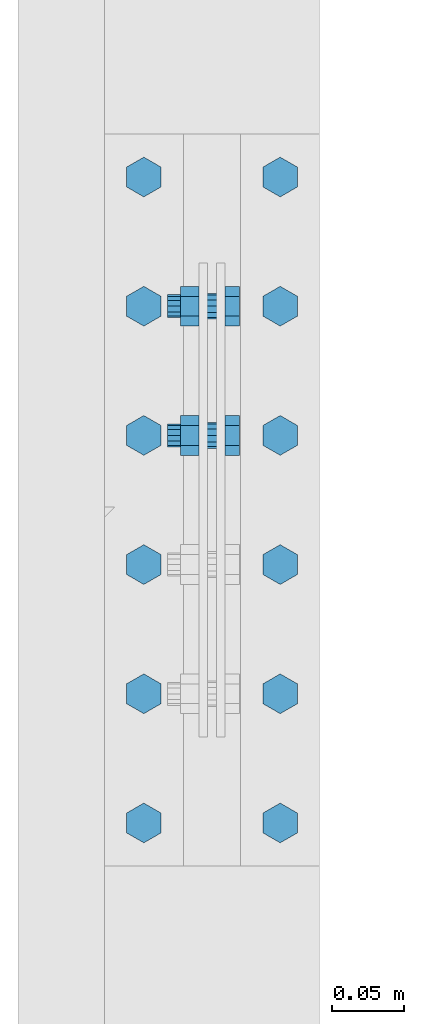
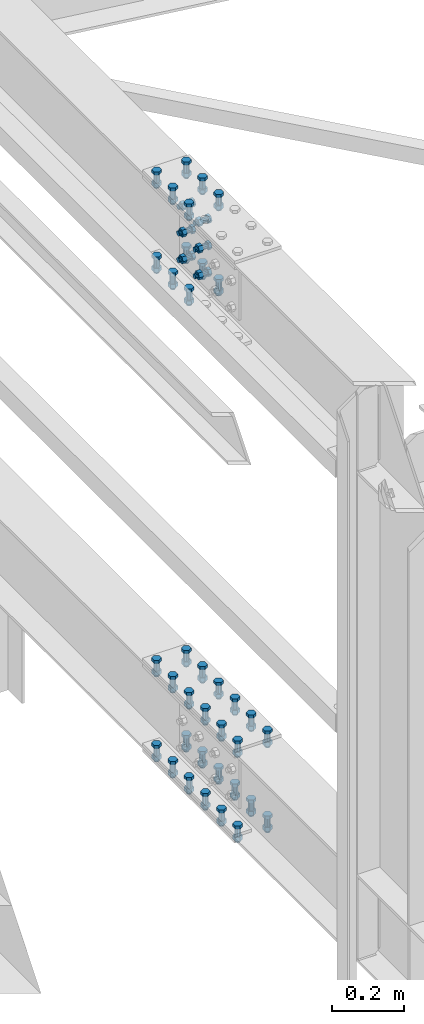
# One storey, part 99 of 3134: 13 mechanical fasteners, 2 elements without a shape of their own.
"""IFC2X3 building model written with IfcOpenShell, lengths in millimetres."""

from ifc_helpers import new_model, si_unit, frame, origin_with_axes, place, context, subcontext, project, spatial, faceted_brep, source, transform, mapped, material, type_object, element, aggregate, save


model = new_model("IFC2X3")

# Units and contexts
model_context = context("Model", 3, precision=1e-05, world=origin_with_axes())
body_context = subcontext(model_context, "Body", "Model", "MODEL_VIEW")
ifc_project = project(units=[si_unit("LENGTHUNIT", "METRE", prefix="MILLI"), si_unit("AREAUNIT", "SQUARE_METRE"), si_unit("VOLUMEUNIT", "CUBIC_METRE"), si_unit("MASSUNIT", "GRAM", prefix="KILO"), si_unit("TIMEUNIT", "SECOND"), si_unit("PLANEANGLEUNIT", "RADIAN"), si_unit("SOLIDANGLEUNIT", "STERADIAN"), si_unit("THERMODYNAMICTEMPERATUREUNIT", "DEGREE_CELSIUS"), si_unit("LUMINOUSINTENSITYUNIT", "LUMEN")], contexts=[model_context])

# Site, building, storey
site_placement = place(None, origin_with_axes())
site = spatial("IfcSite", under=ifc_project, at=site_placement, CompositionType="ELEMENT")
building_placement = place(site_placement, origin_with_axes())
building = spatial("IfcBuilding", under=site, at=building_placement, Name="Undefined", CompositionType="ELEMENT")
storey_placement = place(building_placement, origin_with_axes())
storey = spatial("IfcBuildingStorey", under=building, at=storey_placement, Name="Undefined", CompositionType="ELEMENT", Elevation=0.0)

# Assembly, mechanical fastener
assembly_1_placement = place(storey_placement, origin_with_axes())
assembly_1 = element("IfcElementAssembly", 1, at=assembly_1_placement, inside=storey, Name="300", AssemblyPlace="NOTDEFINED", PredefinedType="RIGID_FRAME")
ifc_material = material(Name="8.8")
mechanical_fastener_type = type_object("IfcMechanicalFastenerType", Name="Bolt assembly")
shared_shape_1 = source(origin_with_axes(), body_context, "Body", "Brep", [
    faceted_brep([(13.856406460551, -19.0499999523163, 0.0), (6.92820323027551, -19.0499999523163, 12.0), (-6.92820323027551, -19.0499999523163, 12.0), (-13.856406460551, -19.0499999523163, 1.69692038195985e-15), (-6.92820323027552, -19.0499999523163, -12.0), (6.9282032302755, -19.0499999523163, -12.0), (6.9282032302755, -9.04999995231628, -12.0), (-6.92820323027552, -9.04999995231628, -12.0), (-13.856406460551, -9.04999995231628, 1.69692038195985e-15), (-6.92820323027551, -9.04999995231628, 12.0), (6.92820323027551, -9.04999995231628, 12.0), (13.856406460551, -9.04999995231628, 0.0), (8.0, -9.04999995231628, 0.0), (6.92820323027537, -9.04999995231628, 4.00000000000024), (3.99999999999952, -9.04999995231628, 6.92820323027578), (-8.29068785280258e-13, -9.04999995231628, 8.0), (-4.00000000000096, -9.04999995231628, 6.92820323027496), (-6.9282032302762, -9.04999995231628, 3.99999999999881), (-8.0, -9.04999995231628, -1.65813757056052e-12), (-6.92820323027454, -9.04999995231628, -4.00000000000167), (-3.99999999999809, -9.04999995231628, -6.92820323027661), (2.47832457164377e-12, -9.04999995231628, -8.0), (4.00000000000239, -9.04999995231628, -6.92820323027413), (6.92820323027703, -9.04999995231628, -3.99999999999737), (6.92820323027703, 30.9500000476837, -3.99999999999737), (4.00000000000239, 30.9500000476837, -6.92820323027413), (2.47832457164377e-12, 30.9500000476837, -8.0), (-3.99999999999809, 30.9500000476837, -6.92820323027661), (-6.92820323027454, 30.9500000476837, -4.00000000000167), (-8.0, 30.9500000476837, -1.65813757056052e-12), (-6.9282032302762, 30.9500000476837, 3.99999999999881), (-4.00000000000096, 30.9500000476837, 6.92820323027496), (-8.29068785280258e-13, 30.9500000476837, 8.0), (3.99999999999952, 30.9500000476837, 6.92820323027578), (6.92820323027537, 30.9500000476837, 4.00000000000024), (8.0, 30.9500000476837, 0.0), (13.856406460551, 9.04999995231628, 0.0), (6.92820323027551, 9.04999995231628, 12.0), (-6.92820323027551, 9.04999995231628, 12.0), (-13.856406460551, 9.04999995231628, 1.69692038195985e-15), (-6.92820323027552, 9.04999995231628, -12.0), (6.9282032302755, 9.04999995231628, -12.0), (6.9282032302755, 22.0499999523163, -12.0), (-6.92820323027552, 22.0499999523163, -12.0), (-13.856406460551, 22.0499999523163, 1.69692038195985e-15), (-6.92820323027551, 22.0499999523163, 12.0), (6.92820323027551, 22.0499999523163, 12.0), (13.856406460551, 22.0499999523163, 0.0)], [[[0, 1, 2, 3, 4, 5]], [[6, 7, 8, 9, 10, 11]], [[0, 11, 10, 1]], [[1, 10, 9, 2]], [[2, 9, 8, 3]], [[3, 8, 7, 4]], [[4, 7, 6, 5]], [[5, 6, 11, 0]], [[12, 13, 14, 15, 16, 17, 18, 19, 20, 21, 22, 23]], [[24, 25, 26, 27, 28, 29, 30, 31, 32, 33, 34, 35]], [[12, 35, 34, 13]], [[13, 34, 33, 14]], [[14, 33, 32, 15]], [[15, 32, 31, 16]], [[16, 31, 30, 17]], [[17, 30, 29, 18]], [[18, 29, 28, 19]], [[19, 28, 27, 20]], [[20, 27, 26, 21]], [[21, 26, 25, 22]], [[22, 25, 24, 23]], [[23, 24, 35, 12]], [[36, 37, 38, 39, 40, 41]], [[42, 43, 44, 45, 46, 47]], [[36, 47, 46, 37]], [[37, 46, 45, 38]], [[38, 45, 44, 39]], [[39, 44, 43, 40]], [[40, 43, 42, 41]], [[41, 42, 47, 36]]]),
    faceted_brep([(9.0, -8.94999995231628, 0.0), (7.79422863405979, -8.94999995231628, 4.50000000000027), (4.49999999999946, -8.94999995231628, 7.79422863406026), (-9.3270238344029e-13, -8.94999995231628, 9.0), (-4.50000000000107, -8.94999995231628, 7.79422863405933), (-7.79422863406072, -8.94999995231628, 4.49999999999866), (-9.0, -8.94999995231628, -1.86540476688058e-12), (-7.79422863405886, -8.94999995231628, -4.50000000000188), (-4.49999999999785, -8.94999995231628, -7.79422863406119), (2.78811514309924e-12, -8.94999995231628, -9.0), (4.50000000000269, -8.94999995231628, -7.7942286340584), (7.79422863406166, -8.94999995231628, -4.49999999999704), (7.79422863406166, -2.94999995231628, -4.49999999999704), (4.50000000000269, -2.94999995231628, -7.7942286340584), (2.78811514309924e-12, -2.94999995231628, -9.0), (-4.49999999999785, -2.94999995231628, -7.79422863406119), (-7.79422863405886, -2.94999995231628, -4.50000000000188), (-9.0, -2.94999995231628, -1.86540476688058e-12), (-7.79422863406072, -2.94999995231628, 4.49999999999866), (-4.50000000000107, -2.94999995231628, 7.79422863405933), (-9.3270238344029e-13, -2.94999995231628, 9.0), (4.49999999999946, -2.94999995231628, 7.79422863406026), (7.79422863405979, -2.94999995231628, 4.50000000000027), (9.0, -2.94999995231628, 0.0), (9.0, -3.04999995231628, 0.0), (7.79422863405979, -3.04999995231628, 4.50000000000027), (4.49999999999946, -3.04999995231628, 7.79422863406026), (-9.3270238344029e-13, -3.04999995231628, 9.0), (-4.50000000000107, -3.04999995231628, 7.79422863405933), (-7.79422863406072, -3.04999995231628, 4.49999999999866), (-9.0, -3.04999995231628, -1.86540476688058e-12), (-7.79422863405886, -3.04999995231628, -4.50000000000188), (-4.49999999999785, -3.04999995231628, -7.79422863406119), (2.78811514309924e-12, -3.04999995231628, -9.0), (4.50000000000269, -3.04999995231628, -7.7942286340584), (7.79422863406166, -3.04999995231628, -4.49999999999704), (7.79422863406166, 3.04999995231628, -4.49999999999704), (4.50000000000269, 3.04999995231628, -7.7942286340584), (2.78811514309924e-12, 3.04999995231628, -9.0), (-4.49999999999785, 3.04999995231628, -7.79422863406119), (-7.79422863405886, 3.04999995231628, -4.50000000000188), (-9.0, 3.04999995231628, -1.86540476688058e-12), (-7.79422863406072, 3.04999995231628, 4.49999999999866), (-4.50000000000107, 3.04999995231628, 7.79422863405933), (-9.3270238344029e-13, 3.04999995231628, 9.0), (4.49999999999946, 3.04999995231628, 7.79422863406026), (7.79422863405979, 3.04999995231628, 4.50000000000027), (9.0, 3.04999995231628, 0.0), (9.0, 2.95000000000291, 0.0), (7.79422863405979, 2.95000000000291, 4.50000000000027), (4.49999999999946, 2.95000000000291, 7.79422863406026), (-9.3270238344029e-13, 2.95000000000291, 9.0), (-4.50000000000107, 2.95000000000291, 7.79422863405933), (-7.79422863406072, 2.95000000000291, 4.49999999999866), (-9.0, 2.95000000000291, -1.86540476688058e-12), (-7.79422863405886, 2.95000000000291, -4.50000000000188), (-4.49999999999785, 2.95000000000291, -7.79422863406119), (2.78811514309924e-12, 2.95000000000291, -9.0), (4.50000000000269, 2.95000000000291, -7.7942286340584), (7.79422863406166, 2.95000000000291, -4.49999999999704), (7.79422863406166, 9.04999995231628, -4.49999999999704), (4.50000000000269, 9.04999995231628, -7.7942286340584), (2.78811514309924e-12, 9.04999995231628, -9.0), (-4.49999999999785, 9.04999995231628, -7.79422863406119), (-7.79422863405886, 9.04999995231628, -4.50000000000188), (-9.0, 9.04999995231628, -1.86540476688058e-12), (-7.79422863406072, 9.04999995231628, 4.49999999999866), (-4.50000000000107, 9.04999995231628, 7.79422863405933), (-9.3270238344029e-13, 9.04999995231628, 9.0), (4.49999999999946, 9.04999995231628, 7.79422863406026), (7.79422863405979, 9.04999995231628, 4.50000000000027), (9.0, 9.04999995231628, 0.0)], [[[0, 1, 2, 3, 4, 5, 6, 7, 8, 9, 10, 11]], [[12, 13, 14, 15, 16, 17, 18, 19, 20, 21, 22, 23]], [[0, 23, 22, 1]], [[1, 22, 21, 2]], [[2, 21, 20, 3]], [[3, 20, 19, 4]], [[4, 19, 18, 5]], [[5, 18, 17, 6]], [[6, 17, 16, 7]], [[7, 16, 15, 8]], [[8, 15, 14, 9]], [[9, 14, 13, 10]], [[10, 13, 12, 11]], [[11, 12, 23, 0]], [[24, 25, 26, 27, 28, 29, 30, 31, 32, 33, 34, 35]], [[36, 37, 38, 39, 40, 41, 42, 43, 44, 45, 46, 47]], [[24, 47, 46, 25]], [[25, 46, 45, 26]], [[26, 45, 44, 27]], [[27, 44, 43, 28]], [[28, 43, 42, 29]], [[29, 42, 41, 30]], [[30, 41, 40, 31]], [[31, 40, 39, 32]], [[32, 39, 38, 33]], [[33, 38, 37, 34]], [[34, 37, 36, 35]], [[35, 36, 47, 24]], [[48, 49, 50, 51, 52, 53, 54, 55, 56, 57, 58, 59]], [[60, 61, 62, 63, 64, 65, 66, 67, 68, 69, 70, 71]], [[48, 71, 70, 49]], [[49, 70, 69, 50]], [[50, 69, 68, 51]], [[51, 68, 67, 52]], [[52, 67, 66, 53]], [[53, 66, 65, 54]], [[54, 65, 64, 55]], [[55, 64, 63, 56]], [[56, 63, 62, 57]], [[57, 62, 61, 58]], [[58, 61, 60, 59]], [[59, 60, 71, 48]]]),
])
mechanical_fastener_1_placement = place(assembly_1_placement, frame((20850.0, 28369.9, 5741.5), z_axis=(0.0, 0.0, 1.0), x_axis=(0.0, 1.0, 0.0)))
mechanical_fastener_1 = element("IfcMechanicalFastener", 2, at=mechanical_fastener_1_placement, type_object=mechanical_fastener_type, material=ifc_material, Name="Bolt assembly", NominalDiameter=16.0, NominalLength=40.0, context=body_context, shape_type="MappedRepresentation", body=[
    mapped(shared_shape_1, transform((0.0, 0.0, -90.0))),
    mapped(shared_shape_1, transform((90.0, 0.0, -90.0))),
    mapped(shared_shape_1, transform((0.0, 0.0, 0.0))),
    mapped(shared_shape_1, transform((90.0, 0.0, 0.0))),
    mapped(shared_shape_1, transform((0.0, 0.0, 90.0))),
    mapped(shared_shape_1, transform((90.0, 0.0, 90.0))),
])

assembly_2_placement = place(storey_placement, origin_with_axes())
assembly_2 = element("IfcElementAssembly", 3, at=assembly_2_placement, inside=storey, Name="300", AssemblyPlace="NOTDEFINED", PredefinedType="RIGID_FRAME")
shared_shape_2 = source(origin_with_axes(), body_context, "Body", "Brep", [
    faceted_brep([(13.856406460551, -29.1999998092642, 0.0), (6.92820323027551, -29.1999998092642, 12.0), (-6.92820323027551, -29.1999998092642, 12.0), (-13.856406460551, -29.1999998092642, 1.69692038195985e-15), (-6.92820323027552, -29.1999998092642, -12.0), (6.9282032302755, -29.1999998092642, -12.0), (6.9282032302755, -19.199990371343, -12.0), (-6.92820323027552, -19.199990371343, -12.0), (-13.856406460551, -19.199990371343, 1.69692038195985e-15), (-6.92820323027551, -19.199990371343, 12.0), (6.92820323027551, -19.199990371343, 12.0), (13.856406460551, -19.199990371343, 0.0), (8.0, -19.1999998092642, 0.0), (6.92820323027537, -19.1999998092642, 4.00000000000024), (3.99999999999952, -19.1999998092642, 6.92820323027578), (-8.29068785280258e-13, -19.1999998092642, 8.0), (-4.00000000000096, -19.1999998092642, 6.92820323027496), (-6.9282032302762, -19.1999998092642, 3.99999999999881), (-8.0, -19.1999998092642, -1.65813757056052e-12), (-6.92820323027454, -19.1999998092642, -4.00000000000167), (-3.99999999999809, -19.1999998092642, -6.92820323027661), (2.47832457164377e-12, -19.1999998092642, -8.0), (4.00000000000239, -19.1999998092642, -6.92820323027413), (6.92820323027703, -19.1999998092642, -3.99999999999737), (6.92820323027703, 30.8000001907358, -3.99999999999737), (4.00000000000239, 30.8000001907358, -6.92820323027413), (2.47832457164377e-12, 30.8000001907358, -8.0), (-3.99999999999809, 30.8000001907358, -6.92820323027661), (-6.92820323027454, 30.8000001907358, -4.00000000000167), (-8.0, 30.8000001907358, -1.65813757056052e-12), (-6.9282032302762, 30.8000001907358, 3.99999999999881), (-4.00000000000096, 30.8000001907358, 6.92820323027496), (-8.29068785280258e-13, 30.8000001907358, 8.0), (3.99999999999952, 30.8000001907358, 6.92820323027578), (6.92820323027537, 30.8000001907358, 4.00000000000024), (8.0, 30.8000001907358, 0.0), (13.856406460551, 9.99999995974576, 0.0), (6.92820323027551, 9.99999995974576, 12.0), (-6.92820323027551, 9.99999995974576, 12.0), (-13.856406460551, 9.99999995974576, 1.69692038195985e-15), (-6.92820323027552, 9.99999995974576, -12.0), (6.9282032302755, 9.99999995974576, -12.0), (6.9282032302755, 22.9999913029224, -12.0), (-6.92820323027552, 22.9999913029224, -12.0), (-13.856406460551, 22.9999913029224, 1.69692038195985e-15), (-6.92820323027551, 22.9999913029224, 12.0), (6.92820323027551, 22.9999913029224, 12.0), (13.856406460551, 22.9999913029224, 0.0)], [[[0, 1, 2, 3, 4, 5]], [[6, 7, 8, 9, 10, 11]], [[0, 11, 10, 1]], [[1, 10, 9, 2]], [[2, 9, 8, 3]], [[3, 8, 7, 4]], [[4, 7, 6, 5]], [[5, 6, 11, 0]], [[12, 13, 14, 15, 16, 17, 18, 19, 20, 21, 22, 23]], [[24, 25, 26, 27, 28, 29, 30, 31, 32, 33, 34, 35]], [[12, 35, 34, 13]], [[13, 34, 33, 14]], [[14, 33, 32, 15]], [[15, 32, 31, 16]], [[16, 31, 30, 17]], [[17, 30, 29, 18]], [[18, 29, 28, 19]], [[19, 28, 27, 20]], [[20, 27, 26, 21]], [[21, 26, 25, 22]], [[22, 25, 24, 23]], [[23, 24, 35, 12]], [[36, 37, 38, 39, 40, 41]], [[42, 43, 44, 45, 46, 47]], [[36, 47, 46, 37]], [[37, 46, 45, 38]], [[38, 45, 44, 39]], [[39, 44, 43, 40]], [[40, 43, 42, 41]], [[41, 42, 47, 36]]]),
    faceted_brep([(9.0, -19.0999998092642, 0.0), (7.79422863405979, -19.0999998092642, 4.50000000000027), (4.49999999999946, -19.0999998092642, 7.79422863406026), (-9.3270238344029e-13, -19.0999998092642, 9.0), (-4.50000000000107, -19.0999998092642, 7.79422863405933), (-7.79422863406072, -19.0999998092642, 4.49999999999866), (-9.0, -19.0999998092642, -1.86540476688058e-12), (-7.79422863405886, -19.0999998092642, -4.50000000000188), (-4.49999999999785, -19.0999998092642, -7.79422863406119), (2.78811514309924e-12, -19.0999998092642, -9.0), (4.50000000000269, -19.0999998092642, -7.7942286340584), (7.79422863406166, -19.0999998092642, -4.49999999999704), (7.79422863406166, -9.09999037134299, -4.49999999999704), (4.50000000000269, -9.09999037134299, -7.7942286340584), (2.78811514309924e-12, -9.09999037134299, -9.0), (-4.49999999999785, -9.09999037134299, -7.79422863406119), (-7.79422863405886, -9.09999037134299, -4.50000000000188), (-9.0, -9.09999037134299, -1.86540476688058e-12), (-7.79422863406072, -9.09999037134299, 4.49999999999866), (-4.50000000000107, -9.09999037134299, 7.79422863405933), (-9.3270238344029e-13, -9.09999037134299, 9.0), (4.49999999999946, -9.09999037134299, 7.79422863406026), (7.79422863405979, -9.09999037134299, 4.50000000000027), (9.0, -9.09999037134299, 0.0), (9.0, -9.20000008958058, 0.0), (7.79422863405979, -9.20000008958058, 4.50000000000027), (4.49999999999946, -9.20000008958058, 7.79422863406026), (-9.3270238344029e-13, -9.20000008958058, 9.0), (-4.50000000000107, -9.20000008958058, 7.79422863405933), (-7.79422863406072, -9.20000008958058, 4.49999999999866), (-9.0, -9.20000008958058, -1.86540476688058e-12), (-7.79422863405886, -9.20000008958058, -4.50000000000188), (-4.49999999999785, -9.20000008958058, -7.79422863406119), (2.78811514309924e-12, -9.20000008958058, -9.0), (4.50000000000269, -9.20000008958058, -7.7942286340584), (7.79422863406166, -9.20000008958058, -4.49999999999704), (7.79422863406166, -3.46568413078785e-07, -4.49999999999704), (4.50000000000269, -3.46568413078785e-07, -7.7942286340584), (2.78811514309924e-12, -3.46568413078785e-07, -9.0), (-4.49999999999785, -3.46568413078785e-07, -7.79422863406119), (-7.79422863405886, -3.46568413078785e-07, -4.50000000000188), (-9.0, -3.46568413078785e-07, -1.86540476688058e-12), (-7.79422863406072, -3.46568413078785e-07, 4.49999999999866), (-4.50000000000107, -3.46568413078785e-07, 7.79422863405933), (-9.3270238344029e-13, -3.46568413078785e-07, 9.0), (4.49999999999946, -3.46568413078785e-07, 7.79422863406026), (7.79422863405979, -3.46568413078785e-07, 4.50000000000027), (9.0, -3.46568413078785e-07, 0.0), (9.0, -0.1, 0.0), (7.79422863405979, -0.1, 4.50000000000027), (4.49999999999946, -0.1, 7.79422863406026), (-9.3270238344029e-13, -0.1, 9.0), (-4.50000000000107, -0.1, 7.79422863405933), (-7.79422863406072, -0.1, 4.49999999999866), (-9.0, -0.1, -1.86540476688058e-12), (-7.79422863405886, -0.1, -4.50000000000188), (-4.49999999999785, -0.1, -7.79422863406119), (2.78811514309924e-12, -0.1, -9.0), (4.50000000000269, -0.1, -7.7942286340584), (7.79422863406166, -0.1, -4.49999999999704), (7.79422863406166, 9.99999995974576, -4.49999999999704), (4.50000000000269, 9.99999995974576, -7.7942286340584), (2.78811514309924e-12, 9.99999995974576, -9.0), (-4.49999999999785, 9.99999995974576, -7.79422863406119), (-7.79422863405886, 9.99999995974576, -4.50000000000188), (-9.0, 9.99999995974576, -1.86540476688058e-12), (-7.79422863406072, 9.99999995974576, 4.49999999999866), (-4.50000000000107, 9.99999995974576, 7.79422863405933), (-9.3270238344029e-13, 9.99999995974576, 9.0), (4.49999999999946, 9.99999995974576, 7.79422863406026), (7.79422863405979, 9.99999995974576, 4.50000000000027), (9.0, 9.99999995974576, 0.0)], [[[0, 1, 2, 3, 4, 5, 6, 7, 8, 9, 10, 11]], [[12, 13, 14, 15, 16, 17, 18, 19, 20, 21, 22, 23]], [[0, 23, 22, 1]], [[1, 22, 21, 2]], [[2, 21, 20, 3]], [[3, 20, 19, 4]], [[4, 19, 18, 5]], [[5, 18, 17, 6]], [[6, 17, 16, 7]], [[7, 16, 15, 8]], [[8, 15, 14, 9]], [[9, 14, 13, 10]], [[10, 13, 12, 11]], [[11, 12, 23, 0]], [[24, 25, 26, 27, 28, 29, 30, 31, 32, 33, 34, 35]], [[36, 37, 38, 39, 40, 41, 42, 43, 44, 45, 46, 47]], [[24, 47, 46, 25]], [[25, 46, 45, 26]], [[26, 45, 44, 27]], [[27, 44, 43, 28]], [[28, 43, 42, 29]], [[29, 42, 41, 30]], [[30, 41, 40, 31]], [[31, 40, 39, 32]], [[32, 39, 38, 33]], [[33, 38, 37, 34]], [[34, 37, 36, 35]], [[35, 36, 47, 24]], [[48, 49, 50, 51, 52, 53, 54, 55, 56, 57, 58, 59]], [[60, 61, 62, 63, 64, 65, 66, 67, 68, 69, 70, 71]], [[48, 71, 70, 49]], [[49, 70, 69, 50]], [[50, 69, 68, 51]], [[51, 68, 67, 52]], [[52, 67, 66, 53]], [[53, 66, 65, 54]], [[54, 65, 64, 55]], [[55, 64, 63, 56]], [[56, 63, 62, 57]], [[57, 62, 61, 58]], [[58, 61, 60, 59]], [[59, 60, 71, 48]]]),
])
mechanical_fastener_2_placement = place(assembly_2_placement, frame((20897.5, 28099.9, 4227.80000019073), z_axis=(-1.0, 0.0, 0.0), x_axis=(0.0, 1.0, 0.0)))
mechanical_fastener_2 = element("IfcMechanicalFastener", 4, at=mechanical_fastener_2_placement, type_object=mechanical_fastener_type, material=ifc_material, Name="Bolt assembly", NominalDiameter=16.0, NominalLength=50.0, context=body_context, shape_type="MappedRepresentation", body=[
    mapped(shared_shape_2, transform((0.0, 0.0, 0.0))),
    mapped(shared_shape_2, transform((90.0, 0.0, 0.0))),
    mapped(shared_shape_2, transform((180.0, 0.0, 0.0))),
])

# Mechanical fastener
mechanical_fastener_3_placement = place(assembly_1_placement, frame((20897.5, 28369.9, 4227.80000019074), z_axis=(-1.0, 0.0, 0.0), x_axis=(0.0, 1.0, 0.0)))
mechanical_fastener_3 = element("IfcMechanicalFastener", 5, at=mechanical_fastener_3_placement, type_object=mechanical_fastener_type, material=ifc_material, Name="Bolt assembly", NominalDiameter=16.0, NominalLength=50.0, context=body_context, shape_type="MappedRepresentation", body=[
    mapped(shared_shape_2, transform((0.0, 0.0, 0.0))),
    mapped(shared_shape_2, transform((90.0, 0.0, 0.0))),
    mapped(shared_shape_2, transform((180.0, 0.0, 0.0))),
])

mechanical_fastener_4_placement = place(assembly_1_placement, frame((20802.5, 28369.9, 4227.80000019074), z_axis=(-1.0, 0.0, 0.0), x_axis=(0.0, 1.0, 0.0)))
mechanical_fastener_4 = element("IfcMechanicalFastener", 6, at=mechanical_fastener_4_placement, type_object=mechanical_fastener_type, material=ifc_material, Name="Bolt assembly", NominalDiameter=16.0, NominalLength=50.0, context=body_context, shape_type="MappedRepresentation", body=[
    mapped(shared_shape_2, transform((0.0, 0.0, 0.0))),
    mapped(shared_shape_2, transform((90.0, 0.0, 0.0))),
    mapped(shared_shape_2, transform((180.0, 0.0, 0.0))),
])

mechanical_fastener_5_placement = place(assembly_2_placement, frame((20802.5, 28099.9, 4227.80000019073), z_axis=(-1.0, 0.0, 0.0), x_axis=(0.0, 1.0, 0.0)))
mechanical_fastener_5 = element("IfcMechanicalFastener", 7, at=mechanical_fastener_5_placement, type_object=mechanical_fastener_type, material=ifc_material, Name="Bolt assembly", NominalDiameter=16.0, NominalLength=50.0, context=body_context, shape_type="MappedRepresentation", body=[
    mapped(shared_shape_2, transform((0.0, 0.0, 0.0))),
    mapped(shared_shape_2, transform((90.0, 0.0, 0.0))),
    mapped(shared_shape_2, transform((180.0, 0.0, 0.0))),
])

mechanical_fastener_6_placement = place(assembly_1_placement, frame((20802.5, 28369.9, 5880.80000019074), z_axis=(-1.0, 0.0, 0.0), x_axis=(0.0, 1.0, 0.0)))
mechanical_fastener_6 = element("IfcMechanicalFastener", 8, at=mechanical_fastener_6_placement, type_object=mechanical_fastener_type, material=ifc_material, Name="Bolt assembly", NominalDiameter=16.0, NominalLength=50.0, context=body_context, shape_type="MappedRepresentation", body=[
    mapped(shared_shape_2, transform((0.0, 0.0, 0.0))),
    mapped(shared_shape_2, transform((90.0, 0.0, 0.0))),
    mapped(shared_shape_2, transform((180.0, 0.0, 0.0))),
])

mechanical_fastener_7_placement = place(assembly_1_placement, frame((20897.5, 28369.9, 5880.80000019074), z_axis=(-1.0, 0.0, 0.0), x_axis=(0.0, 1.0, 0.0)))
mechanical_fastener_7 = element("IfcMechanicalFastener", 9, at=mechanical_fastener_7_placement, type_object=mechanical_fastener_type, material=ifc_material, Name="Bolt assembly", NominalDiameter=16.0, NominalLength=50.0, context=body_context, shape_type="MappedRepresentation", body=[
    mapped(shared_shape_2, transform((0.0, 0.0, 0.0))),
    mapped(shared_shape_2, transform((90.0, 0.0, 0.0))),
    mapped(shared_shape_2, transform((180.0, 0.0, 0.0))),
])

shared_shape_3 = source(origin_with_axes(), body_context, "Body", "Brep", [
    faceted_brep([(13.856406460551, -20.0, 0.0), (6.92820323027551, -20.0, 12.0), (-6.92820323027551, -20.0, 12.0), (-13.856406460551, -20.0, 1.69692038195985e-15), (-6.92820323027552, -20.0, -12.0), (6.9282032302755, -20.0, -12.0), (6.9282032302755, -10.0, -12.0), (-6.92820323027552, -10.0, -12.0), (-13.856406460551, -10.0, 1.69692038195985e-15), (-6.92820323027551, -10.0, 12.0), (6.92820323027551, -10.0, 12.0), (13.856406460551, -10.0, 0.0), (8.0, -10.0, 0.0), (6.92820323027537, -10.0, 4.00000000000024), (3.99999999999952, -10.0, 6.92820323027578), (-8.29068785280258e-13, -10.0, 8.0), (-4.00000000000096, -10.0, 6.92820323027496), (-6.9282032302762, -10.0, 3.99999999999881), (-8.0, -10.0, -1.65813757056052e-12), (-6.92820323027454, -10.0, -4.00000000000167), (-3.99999999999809, -10.0, -6.92820323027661), (2.47832457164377e-12, -10.0, -8.0), (4.00000000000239, -10.0, -6.92820323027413), (6.92820323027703, -10.0, -3.99999999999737), (6.92820323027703, 40.0, -3.99999999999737), (4.00000000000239, 40.0, -6.92820323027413), (2.47832457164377e-12, 40.0, -8.0), (-3.99999999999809, 40.0, -6.92820323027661), (-6.92820323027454, 40.0, -4.00000000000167), (-8.0, 40.0, -1.65813757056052e-12), (-6.9282032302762, 40.0, 3.99999999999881), (-4.00000000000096, 40.0, 6.92820323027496), (-8.29068785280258e-13, 40.0, 8.0), (3.99999999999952, 40.0, 6.92820323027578), (6.92820323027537, 40.0, 4.00000000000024), (8.0, 40.0, 0.0), (13.856406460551, 19.1999998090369, 0.0), (6.92820323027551, 19.1999998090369, 12.0), (-6.92820323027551, 19.1999998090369, 12.0), (-13.856406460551, 19.1999998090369, 1.69692038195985e-15), (-6.92820323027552, 19.1999998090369, -12.0), (6.9282032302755, 19.1999998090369, -12.0), (6.9282032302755, 32.1999998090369, -12.0), (-6.92820323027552, 32.1999998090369, -12.0), (-13.856406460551, 32.1999998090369, 1.69692038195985e-15), (-6.92820323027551, 32.1999998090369, 12.0), (6.92820323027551, 32.1999998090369, 12.0), (13.856406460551, 32.1999998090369, 0.0)], [[[0, 1, 2, 3, 4, 5]], [[6, 7, 8, 9, 10, 11]], [[0, 11, 10, 1]], [[1, 10, 9, 2]], [[2, 9, 8, 3]], [[3, 8, 7, 4]], [[4, 7, 6, 5]], [[5, 6, 11, 0]], [[12, 13, 14, 15, 16, 17, 18, 19, 20, 21, 22, 23]], [[24, 25, 26, 27, 28, 29, 30, 31, 32, 33, 34, 35]], [[12, 35, 34, 13]], [[13, 34, 33, 14]], [[14, 33, 32, 15]], [[15, 32, 31, 16]], [[16, 31, 30, 17]], [[17, 30, 29, 18]], [[18, 29, 28, 19]], [[19, 28, 27, 20]], [[20, 27, 26, 21]], [[21, 26, 25, 22]], [[22, 25, 24, 23]], [[23, 24, 35, 12]], [[36, 37, 38, 39, 40, 41]], [[42, 43, 44, 45, 46, 47]], [[36, 47, 46, 37]], [[37, 46, 45, 38]], [[38, 45, 44, 39]], [[39, 44, 43, 40]], [[40, 43, 42, 41]], [[41, 42, 47, 36]]]),
    faceted_brep([(9.0, 9.09999980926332, 0.0), (7.79422863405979, 9.09999980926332, 4.50000000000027), (4.49999999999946, 9.09999980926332, 7.79422863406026), (-9.3270238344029e-13, 9.09999980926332, 9.0), (-4.50000000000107, 9.09999980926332, 7.79422863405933), (-7.79422863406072, 9.09999980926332, 4.49999999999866), (-9.0, 9.09999980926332, -1.86540476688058e-12), (-7.79422863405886, 9.09999980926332, -4.50000000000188), (-4.49999999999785, 9.09999980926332, -7.79422863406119), (2.78811514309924e-12, 9.09999980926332, -9.0), (4.50000000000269, 9.09999980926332, -7.7942286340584), (7.79422863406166, 9.09999980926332, -4.49999999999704), (7.79422863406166, 19.1999998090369, -4.49999999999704), (4.50000000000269, 19.1999998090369, -7.7942286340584), (2.78811514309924e-12, 19.1999998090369, -9.0), (-4.49999999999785, 19.1999998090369, -7.79422863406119), (-7.79422863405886, 19.1999998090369, -4.50000000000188), (-9.0, 19.1999998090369, -1.86540476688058e-12), (-7.79422863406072, 19.1999998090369, 4.49999999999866), (-4.50000000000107, 19.1999998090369, 7.79422863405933), (-9.3270238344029e-13, 19.1999998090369, 9.0), (4.49999999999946, 19.1999998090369, 7.79422863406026), (7.79422863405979, 19.1999998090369, 4.50000000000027), (9.0, 19.1999998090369, 0.0), (9.0, -3.46568413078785e-07, 0.0), (7.79422863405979, -3.46568413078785e-07, 4.50000000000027), (4.49999999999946, -3.46568413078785e-07, 7.79422863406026), (-9.3270238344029e-13, -3.46568413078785e-07, 9.0), (-4.50000000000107, -3.46568413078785e-07, 7.79422863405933), (-7.79422863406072, -3.46568413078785e-07, 4.49999999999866), (-9.0, -3.46568413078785e-07, -1.86540476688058e-12), (-7.79422863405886, -3.46568413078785e-07, -4.50000000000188), (-4.49999999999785, -3.46568413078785e-07, -7.79422863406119), (2.78811514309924e-12, -3.46568413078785e-07, -9.0), (4.50000000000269, -3.46568413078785e-07, -7.7942286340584), (7.79422863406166, -3.46568413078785e-07, -4.49999999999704), (7.79422863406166, 9.19999980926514, -4.49999999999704), (4.50000000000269, 9.19999980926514, -7.7942286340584), (2.78811514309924e-12, 9.19999980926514, -9.0), (-4.49999999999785, 9.19999980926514, -7.79422863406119), (-7.79422863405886, 9.19999980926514, -4.50000000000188), (-9.0, 9.19999980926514, -1.86540476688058e-12), (-7.79422863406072, 9.19999980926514, 4.49999999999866), (-4.50000000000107, 9.19999980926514, 7.79422863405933), (-9.3270238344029e-13, 9.19999980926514, 9.0), (4.49999999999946, 9.19999980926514, 7.79422863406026), (7.79422863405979, 9.19999980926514, 4.50000000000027), (9.0, 9.19999980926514, 0.0), (9.0, -9.89999997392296, 0.0), (7.79422863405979, -9.89999997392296, 4.50000000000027), (4.49999999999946, -9.89999997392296, 7.79422863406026), (-9.3270238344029e-13, -9.89999997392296, 9.0), (-4.50000000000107, -9.89999997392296, 7.79422863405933), (-7.79422863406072, -9.89999997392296, 4.49999999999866), (-9.0, -9.89999997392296, -1.86540476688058e-12), (-7.79422863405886, -9.89999997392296, -4.50000000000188), (-4.49999999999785, -9.89999997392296, -7.79422863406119), (2.78811514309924e-12, -9.89999997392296, -9.0), (4.50000000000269, -9.89999997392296, -7.7942286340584), (7.79422863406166, -9.89999997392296, -4.49999999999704), (7.79422863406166, 0.100000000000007, -4.49999999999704), (4.50000000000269, 0.100000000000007, -7.7942286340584), (2.78811514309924e-12, 0.100000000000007, -9.0), (-4.49999999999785, 0.100000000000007, -7.79422863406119), (-7.79422863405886, 0.100000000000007, -4.50000000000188), (-9.0, 0.100000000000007, -1.86540476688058e-12), (-7.79422863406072, 0.100000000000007, 4.49999999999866), (-4.50000000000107, 0.100000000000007, 7.79422863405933), (-9.3270238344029e-13, 0.100000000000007, 9.0), (4.49999999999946, 0.100000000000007, 7.79422863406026), (7.79422863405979, 0.100000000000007, 4.50000000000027), (9.0, 0.100000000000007, 0.0)], [[[0, 1, 2, 3, 4, 5, 6, 7, 8, 9, 10, 11]], [[12, 13, 14, 15, 16, 17, 18, 19, 20, 21, 22, 23]], [[0, 23, 22, 1]], [[1, 22, 21, 2]], [[2, 21, 20, 3]], [[3, 20, 19, 4]], [[4, 19, 18, 5]], [[5, 18, 17, 6]], [[6, 17, 16, 7]], [[7, 16, 15, 8]], [[8, 15, 14, 9]], [[9, 14, 13, 10]], [[10, 13, 12, 11]], [[11, 12, 23, 0]], [[24, 25, 26, 27, 28, 29, 30, 31, 32, 33, 34, 35]], [[36, 37, 38, 39, 40, 41, 42, 43, 44, 45, 46, 47]], [[24, 47, 46, 25]], [[25, 46, 45, 26]], [[26, 45, 44, 27]], [[27, 44, 43, 28]], [[28, 43, 42, 29]], [[29, 42, 41, 30]], [[30, 41, 40, 31]], [[31, 40, 39, 32]], [[32, 39, 38, 33]], [[33, 38, 37, 34]], [[34, 37, 36, 35]], [[35, 36, 47, 24]], [[48, 49, 50, 51, 52, 53, 54, 55, 56, 57, 58, 59]], [[60, 61, 62, 63, 64, 65, 66, 67, 68, 69, 70, 71]], [[48, 71, 70, 49]], [[49, 70, 69, 50]], [[50, 69, 68, 51]], [[51, 68, 67, 52]], [[52, 67, 66, 53]], [[53, 66, 65, 54]], [[54, 65, 64, 55]], [[55, 64, 63, 56]], [[56, 63, 62, 57]], [[57, 62, 61, 58]], [[58, 61, 60, 59]], [[59, 60, 71, 48]]]),
])
mechanical_fastener_8_placement = place(assembly_1_placement, frame((20802.4999999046, 28369.9, 3949.19999980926), z_axis=(-1.0, 0.0, 0.0), x_axis=(0.0, 1.0, 0.0)))
mechanical_fastener_8 = element("IfcMechanicalFastener", 10, at=mechanical_fastener_8_placement, type_object=mechanical_fastener_type, material=ifc_material, Name="Bolt assembly", NominalDiameter=16.0, NominalLength=50.0, context=body_context, shape_type="MappedRepresentation", body=[
    mapped(shared_shape_3, transform((0.0, 0.0, 0.0))),
    mapped(shared_shape_3, transform((90.0, 0.0, 0.0))),
    mapped(shared_shape_3, transform((180.0, 0.0, 0.0))),
])

mechanical_fastener_9_placement = place(assembly_2_placement, frame((20802.4999999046, 28099.9, 3949.19999980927), z_axis=(-1.0, 0.0, 0.0), x_axis=(0.0, 1.0, 0.0)))
mechanical_fastener_9 = element("IfcMechanicalFastener", 11, at=mechanical_fastener_9_placement, type_object=mechanical_fastener_type, material=ifc_material, Name="Bolt assembly", NominalDiameter=16.0, NominalLength=50.0, context=body_context, shape_type="MappedRepresentation", body=[
    mapped(shared_shape_3, transform((0.0, 0.0, 0.0))),
    mapped(shared_shape_3, transform((90.0, 0.0, 0.0))),
    mapped(shared_shape_3, transform((180.0, 0.0, 0.0))),
])

mechanical_fastener_10_placement = place(assembly_1_placement, frame((20897.4999999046, 28369.9, 3949.19999980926), z_axis=(-1.0, 0.0, 0.0), x_axis=(0.0, 1.0, 0.0)))
mechanical_fastener_10 = element("IfcMechanicalFastener", 12, at=mechanical_fastener_10_placement, type_object=mechanical_fastener_type, material=ifc_material, Name="Bolt assembly", NominalDiameter=16.0, NominalLength=50.0, context=body_context, shape_type="MappedRepresentation", body=[
    mapped(shared_shape_3, transform((0.0, 0.0, 0.0))),
    mapped(shared_shape_3, transform((90.0, 0.0, 0.0))),
    mapped(shared_shape_3, transform((180.0, 0.0, 0.0))),
])

mechanical_fastener_11_placement = place(assembly_2_placement, frame((20897.4999999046, 28099.9, 3949.19999980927), z_axis=(-1.0, 0.0, 0.0), x_axis=(0.0, 1.0, 0.0)))
mechanical_fastener_11 = element("IfcMechanicalFastener", 13, at=mechanical_fastener_11_placement, type_object=mechanical_fastener_type, material=ifc_material, Name="Bolt assembly", NominalDiameter=16.0, NominalLength=50.0, context=body_context, shape_type="MappedRepresentation", body=[
    mapped(shared_shape_3, transform((0.0, 0.0, 0.0))),
    mapped(shared_shape_3, transform((90.0, 0.0, 0.0))),
    mapped(shared_shape_3, transform((180.0, 0.0, 0.0))),
])

aggregate(assembly_2, [mechanical_fastener_2, mechanical_fastener_5, mechanical_fastener_9, mechanical_fastener_11])

mechanical_fastener_12_placement = place(assembly_1_placement, frame((20897.4999999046, 28369.9, 5602.19999980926), z_axis=(-1.0, 0.0, 0.0), x_axis=(0.0, 1.0, 0.0)))
mechanical_fastener_12 = element("IfcMechanicalFastener", 14, at=mechanical_fastener_12_placement, type_object=mechanical_fastener_type, material=ifc_material, Name="Bolt assembly", NominalDiameter=16.0, NominalLength=50.0, context=body_context, shape_type="MappedRepresentation", body=[
    mapped(shared_shape_3, transform((0.0, 0.0, 0.0))),
    mapped(shared_shape_3, transform((90.0, 0.0, 0.0))),
    mapped(shared_shape_3, transform((180.0, 0.0, 0.0))),
])

mechanical_fastener_13_placement = place(assembly_1_placement, frame((20802.4999999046, 28369.9, 5602.19999980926), z_axis=(-1.0, 0.0, 0.0), x_axis=(0.0, 1.0, 0.0)))
mechanical_fastener_13 = element("IfcMechanicalFastener", 15, at=mechanical_fastener_13_placement, type_object=mechanical_fastener_type, material=ifc_material, Name="Bolt assembly", NominalDiameter=16.0, NominalLength=50.0, context=body_context, shape_type="MappedRepresentation", body=[
    mapped(shared_shape_3, transform((0.0, 0.0, 0.0))),
    mapped(shared_shape_3, transform((90.0, 0.0, 0.0))),
    mapped(shared_shape_3, transform((180.0, 0.0, 0.0))),
])

aggregate(assembly_1, [mechanical_fastener_3, mechanical_fastener_4, mechanical_fastener_8, mechanical_fastener_10, mechanical_fastener_12, mechanical_fastener_6, mechanical_fastener_13, mechanical_fastener_7, mechanical_fastener_1])

save(model, "model.ifc")
